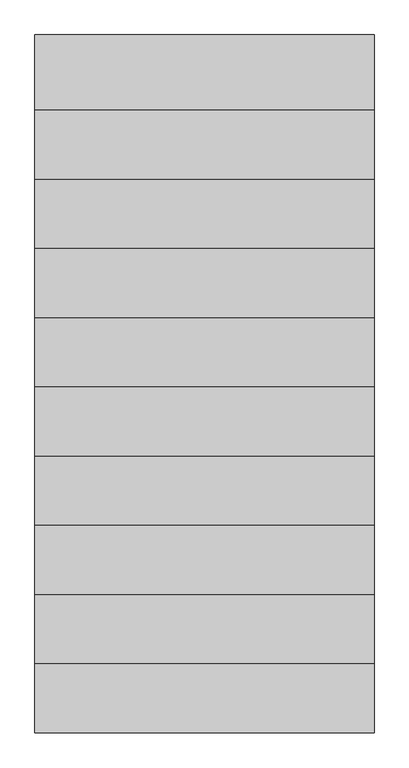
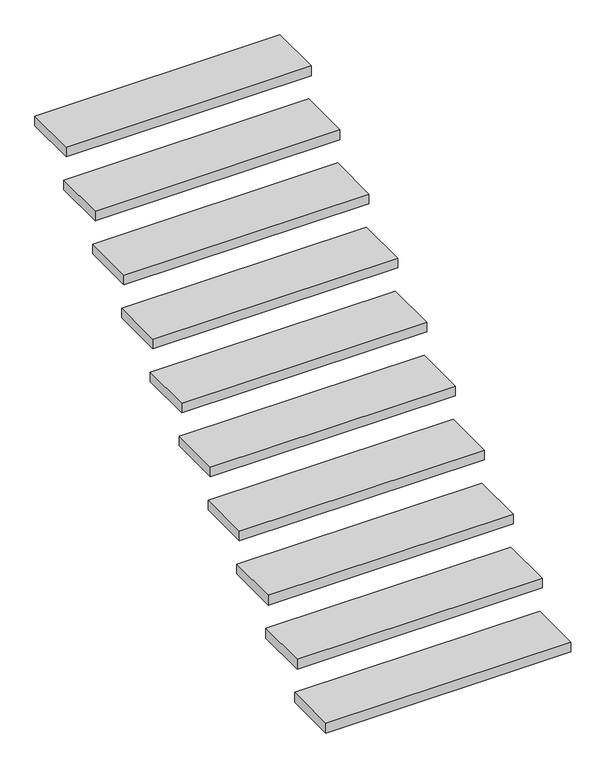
"""IFC4 building model written with IfcOpenShell, lengths in millimetres: stair flight geometry, 50mm 踏板 13mm 踢面."""

from ifc_helpers import new_model, si_unit, frame, origin, place, context, project, spatial, polyline, outline, extrude, source, transform, mapped, element, save


def stair_flight_9cd476aa(model_context):
    return source(origin(), model_context, "Body", "SweptSolid", [
        extrude(outline(polyline([(5228.232234, -1048.3095556), (6428.232234, -1048.3095556), (6428.232234, -1313.3095556), (5228.232234, -1313.3095556), (5228.232234, -1048.3095556)])), frame((0.0, 0.0, -1861.8181818), z_axis=(0.0, 0.0, 1.0), x_axis=(1.0, 0.0, 0.0)), (0.0, 0.0, 1.0), 50.0),
        extrude(outline(polyline([(5228.232234, -803.3095556), (6428.232234, -803.3095556), (6428.232234, -1068.3095556), (5228.232234, -1068.3095556), (5228.232234, -803.3095556)])), frame((0.0, 0.0, -1678.6363636), z_axis=(0.0, 0.0, 1.0), x_axis=(1.0, 0.0, 0.0)), (0.0, 0.0, 1.0), 50.0),
        extrude(outline(polyline([(5228.232234, -558.3095556), (6428.232234, -558.3095556), (6428.232234, -823.3095556), (5228.232234, -823.3095556), (5228.232234, -558.3095556)])), frame((0.0, 0.0, -1495.4545455), z_axis=(0.0, 0.0, 1.0), x_axis=(1.0, 0.0, 0.0)), (0.0, 0.0, 1.0), 50.0),
        extrude(outline(polyline([(5228.232234, -313.3095556), (6428.232234, -313.3095556), (6428.232234, -578.3095556), (5228.232234, -578.3095556), (5228.232234, -313.3095556)])), frame((0.0, 0.0, -1312.2727273), z_axis=(0.0, 0.0, 1.0), x_axis=(1.0, 0.0, 0.0)), (0.0, 0.0, 1.0), 50.0),
        extrude(outline(polyline([(5228.232234, -68.3095556), (6428.232234, -68.3095556), (6428.232234, -333.3095556), (5228.232234, -333.3095556), (5228.232234, -68.3095556)])), frame((0.0, 0.0, -1129.0909091), z_axis=(0.0, 0.0, 1.0), x_axis=(1.0, 0.0, 0.0)), (0.0, 0.0, 1.0), 50.0),
        extrude(outline(polyline([(5228.232234, 176.6904444), (6428.232234, 176.6904444), (6428.232234, -88.3095556), (5228.232234, -88.3095556), (5228.232234, 176.6904444)])), frame((0.0, 0.0, -945.9090909), z_axis=(0.0, 0.0, 1.0), x_axis=(1.0, 0.0, 0.0)), (0.0, 0.0, 1.0), 50.0),
        extrude(outline(polyline([(5228.232234, 421.6904444), (6428.232234, 421.6904444), (6428.232234, 156.6904444), (5228.232234, 156.6904444), (5228.232234, 421.6904444)])), frame((0.0, 0.0, -762.7272727), z_axis=(0.0, 0.0, 1.0), x_axis=(1.0, 0.0, 0.0)), (0.0, 0.0, 1.0), 50.0),
        extrude(outline(polyline([(5228.232234, 666.6904444), (6428.232234, 666.6904444), (6428.232234, 401.6904444), (5228.232234, 401.6904444), (5228.232234, 666.6904444)])), frame((0.0, 0.0, -579.5454545), z_axis=(0.0, 0.0, 1.0), x_axis=(1.0, 0.0, 0.0)), (0.0, 0.0, 1.0), 50.0),
        extrude(outline(polyline([(5228.232234, 911.6904444), (6428.232234, 911.6904444), (6428.232234, 646.6904444), (5228.232234, 646.6904444), (5228.232234, 911.6904444)])), frame((0.0, 0.0, -396.3636364), z_axis=(0.0, 0.0, 1.0), x_axis=(1.0, 0.0, 0.0)), (0.0, 0.0, 1.0), 50.0),
        extrude(outline(polyline([(5228.232234, 1156.6904444), (6428.232234, 1156.6904444), (6428.232234, 891.6904444), (5228.232234, 891.6904444), (5228.232234, 1156.6904444)])), frame((0.0, 0.0, -213.1818182), z_axis=(0.0, 0.0, 1.0), x_axis=(1.0, 0.0, 0.0)), (0.0, 0.0, 1.0), 50.0),
    ])


if __name__ == "__main__":
    model = new_model("IFC4")
    model_context = context("Model", 3, world=origin())
    ifc_project = project(units=[si_unit("LENGTHUNIT", "METRE", prefix="MILLI")], contexts=[model_context])
    site = spatial("IfcSite", under=ifc_project)
    building = spatial("IfcBuilding", under=site)
    placement = place(None, origin())
    stair_flight_shape = stair_flight_9cd476aa(model_context)
    element("IfcStairFlight", 1, ObjectType="50mm 踏板 13mm 踢面", at=placement, inside=building, context=model_context, shape_type="MappedRepresentation", body=[
        mapped(stair_flight_shape, transform((0.0, 0.0, 0.0), x_axis=(1.0, 0.0, 0.0), y_axis=(0.0, 1.0, 0.0), z_axis=(0.0, 0.0, 1.0))),
    ])
    save(model, "model.ifc")
